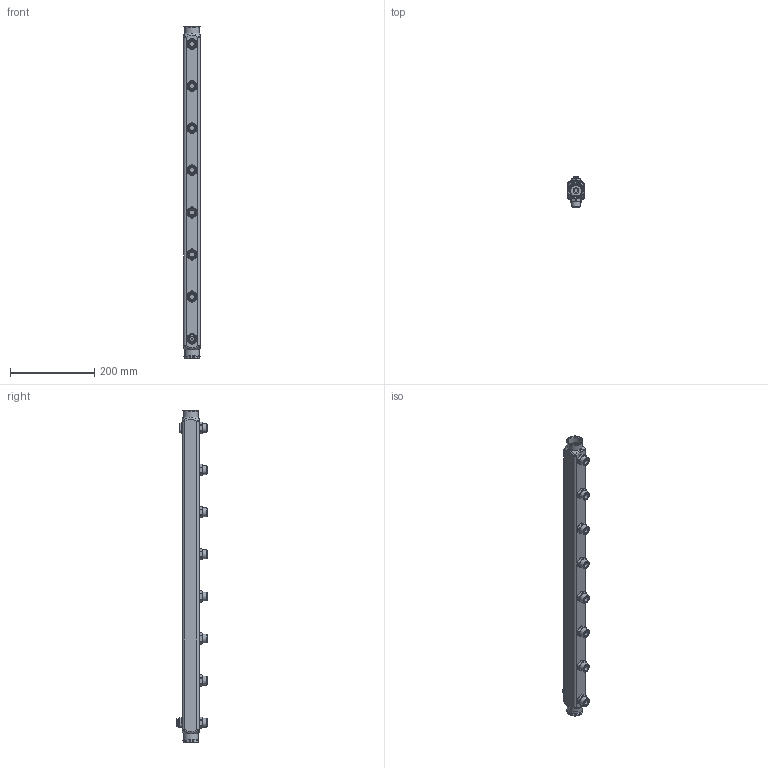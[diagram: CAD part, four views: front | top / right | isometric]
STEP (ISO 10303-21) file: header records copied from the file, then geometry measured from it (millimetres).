
FILE_DESCRIPTION(('STEP AP203'), '1');
FILE_NAME('VTc.510.SQ.060402', '2025-12-12T12:04:39', ('verevichevva'), ('Vesta'), 'C3D Converter', 'C3D Toolkit', '');
FILE_SCHEMA(('CONFIG_CONTROL_DESIGN'));
Length unit declared in the file: millimetre
Products named in the file (1): ВР.622621.198.000 СБ
Bounding box: 40 x 73.6 x 788.5 mm (x, y, z)
Volume: 251387.9 mm3; surface area: 261816.6 mm2
Topology: 1 solids, 24 shells, 973 faces, 2483 edges, 1593 vertices
Faces by surface type: plane 358, cone 195, cylinder 182, extrusion 118, bspline 72, torus 48
Full cylindrical faces by diameter (mm): 1.6 x1, 2.3 x1, 3.4 x1, 4.134 x1, 5 x1, 5.3 x1, 6.3 x2, 9.6 x1, 10.2 x1, 12 x8, 13 x1, 14 x1, 15.7 x1, 18 x9, 18.5 x1, 19 x10, 19.5 x1, 20 x1, 20.955 x17, 22 x1, 22.2 x10, 23 x1, 24 x1, 25.5 x1, 26 x1, 28 x1, 30 x2, 31.8 x3, 35 x2, 35.3 x2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
Entity records: 38790 total; most frequent: CARTESIAN_POINT 17173, ORIENTED_EDGE 4544, DIRECTION 3883, EDGE_CURVE 2272, VERTEX_POINT 1587, AXIS2_PLACEMENT_3D 1429, EDGE_LOOP 1271, VECTOR 1025
